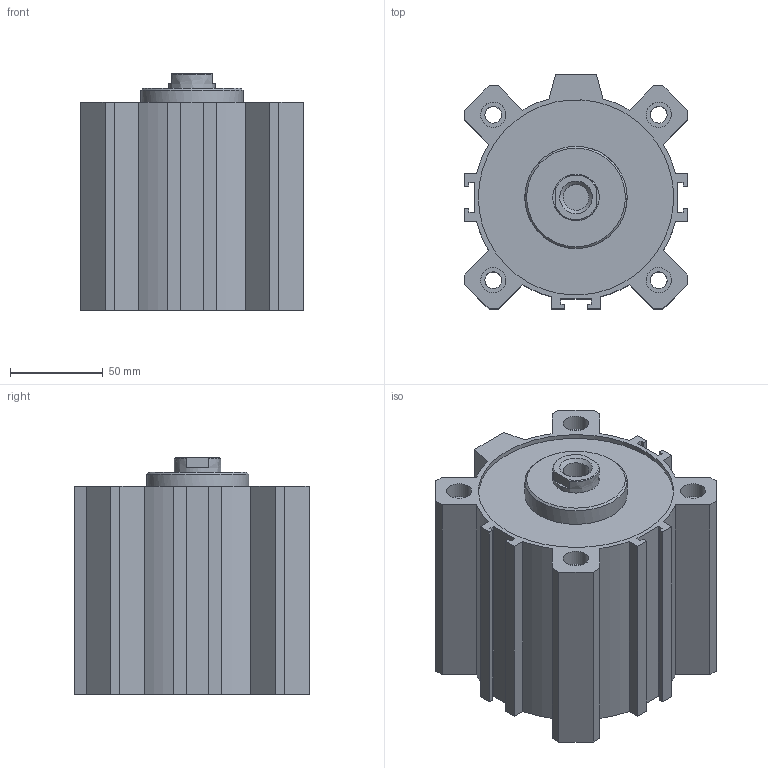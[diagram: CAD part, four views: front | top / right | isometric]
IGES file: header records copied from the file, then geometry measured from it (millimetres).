
Global section: file name: 1511_100_0060; native system: Autodesk Inventor 2014; preprocessor: unknown; author: A. Manieri; date: 20160824.162634; units: millimetre
Bounding box: 120 x 126 x 127.5 mm (x, y, z)
Volume: 862985.5 mm3; surface area: 181082.5 mm2
Topology: 2 solids, 2 shells, 119 faces, 307 edges, 210 vertices
Faces by surface type: bspline 119
